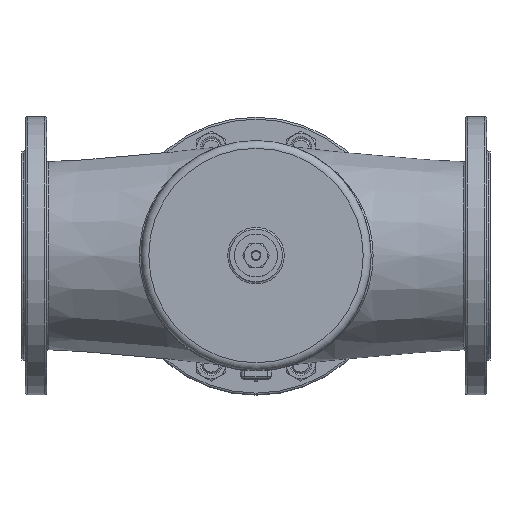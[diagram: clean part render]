
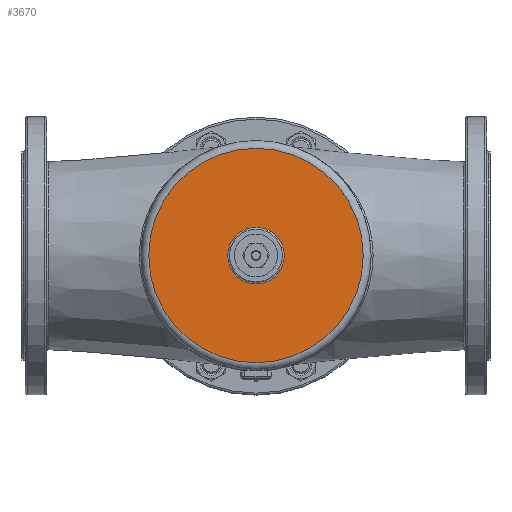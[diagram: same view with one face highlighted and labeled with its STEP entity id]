
A CAD part, top view. The second image highlights one B-rep face of the part: STEP entity #3670.
In plain terms, the highlighted planar face has unit normal (0, 0, 1).
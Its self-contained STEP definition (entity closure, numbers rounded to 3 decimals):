
#3670=ADVANCED_FACE('',(#4315,#4316),#4119,.T.);
#4119=PLANE('',#9011);
#4315=FACE_BOUND('',#4679,.T.);
#4316=FACE_BOUND('',#4680,.T.);
#4679=EDGE_LOOP('',(#5407));
#4680=EDGE_LOOP('',(#5408));
#5407=ORIENTED_EDGE('',*,*,#7757,.T.);
#5408=ORIENTED_EDGE('',*,*,#7758,.T.);
#7154=VERTEX_POINT('',#12246);
#7155=VERTEX_POINT('',#12248);
#7757=EDGE_CURVE('',#7154,#7154,#8622,.T.);
#7758=EDGE_CURVE('',#7155,#7155,#8623,.T.);
#8622=CIRCLE('',#9009,110.);
#8623=CIRCLE('',#9010,29.);
#9009=AXIS2_PLACEMENT_3D('',#12245,#9911,#9912);
#9010=AXIS2_PLACEMENT_3D('',#12247,#9913,#9914);
#9011=AXIS2_PLACEMENT_3D('',#12249,#9915,#9916);
#9911=DIRECTION('',(0.,0.,1.));
#9912=DIRECTION('',(1.,0.,0.));
#9913=DIRECTION('',(0.,0.,-1.));
#9914=DIRECTION('',(1.,0.,0.));
#9915=DIRECTION('',(0.,0.,1.));
#9916=DIRECTION('',(1.,0.,0.));
#12245=CARTESIAN_POINT('',(490.,0.,136.5));
#12246=CARTESIAN_POINT('',(600.,0.,136.5));
#12247=CARTESIAN_POINT('',(490.,0.,136.5));
#12248=CARTESIAN_POINT('',(519.,0.,136.5));
#12249=CARTESIAN_POINT('',(490.,0.,136.5));
